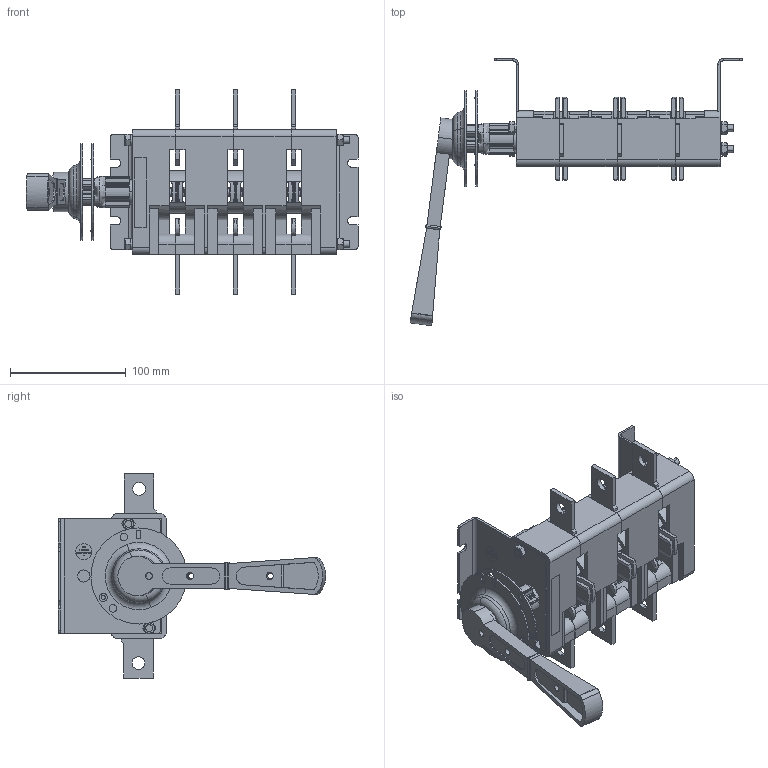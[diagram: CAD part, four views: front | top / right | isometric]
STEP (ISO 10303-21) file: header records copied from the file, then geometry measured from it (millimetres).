
FILE_DESCRIPTION (( 'STEP AP214' ), '1' );
FILE_NAME ('ﾂﾐ32-37ﾔ ﾃﾆﾈﾊ.642523.008-03 (ﾂ30250-400ﾀ).STEP', '2022-07-14T11:00:48', ( '' ), ( '' ), 'SwSTEP 2.0', 'SolidWorks 2018', '' );
FILE_SCHEMA (( 'AUTOMOTIVE_DESIGN' ));
Length unit declared in the file: millimetre
Products named in the file (30): 想囫蜩磬_闷仁.745355.007; Ðóêîÿòêà ÃÆÈÊ.303658.010; Êîíòàêò ïîäâèæíûé_ÃÆÈÊ.745355.013; Êîðïóñ ëåâûé ÃÆÈÊ.735384.047; ﾘ琺矜 D32; 噪囗弼 闷仁.712378.001; Ïëàñòèíà óïðàâëåíèÿ; ﾏ跖浯 ﾃﾆﾈﾊ.753553.010; ﾘ琺矜 D15; ﾘ琺矜 6 65ﾃ 016; 暑痫篑 镳噔 闷仁.735384.045; 务黖闷仁.715411.019; 想囫蜩磬_-01 (帷獱); Êîíòàêò ïîäâèæíûé ÃÆÈÊ.685179.145; Êîðïóñ ñðåäíèé ÃÆÈÊ.735384.046; ﾂ琿 ﾃﾆﾈﾊ.715274.003; Òàáëè÷êà äëÿ ñáîðêè ÷èñòàÿ; ﾂﾐ32-37ﾔ ﾃﾆﾈﾊ.642523.008-03 (ﾂ30250-400ﾀ); ﾘ琺矜 ﾃﾆﾈﾊ.758491.056; Áîêîâèíà ïðàâàÿ ÃÆÈÊ.735224.026; Øïèëüêà Ì6 ÃÆÈÊ.758292.005; Ãàéêà 2Ì6-6Í.5.016; ﾎﾁﾎﾋﾎﾗﾊﾀ_ﾍ; ﾂ鏆鮏 ﾃﾆﾈﾊ.745485.005; ﾏ跖浯_ﾃﾆﾈﾊ.753553.011_-01 (癸ｮ爼); Òàáëè÷êà äëÿ ñáîðêè ÷èñòàÿ áîëüøàÿ; 买箅赅 闷仁.713141.010; Áîêîâèíà ëåâàÿ ÃÆÈÊ.735224.027; 澡犟囹铕 闷仁.745484.003; 澡犟囹铕_闷仁.745484.006
Assembly tree (52 placements, depth 3):
  ﾂﾐ32-37ﾔ ﾃﾆﾈﾊ.642523.008-03 (ﾂ30250-400ﾀ)
    ﾂ琿 ﾃﾆﾈﾊ.715274.003
    Êîðïóñ ëåâûé ÃÆÈÊ.735384.047
    Êîðïóñ ñðåäíèé ÃÆÈÊ.735384.046  x2
    暑痫篑 镳噔 闷仁.735384.045
    Áîêîâèíà ëåâàÿ ÃÆÈÊ.735224.027
    Áîêîâèíà ïðàâàÿ ÃÆÈÊ.735224.026
    Êîíòàêò ïîäâèæíûé ÃÆÈÊ.685179.145  x3
      Êîíòàêò ïîäâèæíûé_ÃÆÈÊ.745355.013
      想囫蜩磬_闷仁.745355.007
      澡犟囹铕_闷仁.745484.006
      务黖闷仁.715411.019
      ﾏ跖浯_ﾃﾆﾈﾊ.753553.011_-01 (癸ｮ爼)
    Øïèëüêà Ì6 ÃÆÈÊ.758292.005  x2
    Ãàéêà 2Ì6-6Í.5.016  x4
    ﾘ琺矜 6 65ﾃ 016  x4
    ﾏ跖浯 ﾃﾆﾈﾊ.753553.010  x2
    澡犟囹铕 闷仁.745484.003  x2
    Ðóêîÿòêà ÃÆÈÊ.303658.010
      ﾘ琺矜 D32
      ﾘ琺矜 D15
      Ïëàñòèíà óïðàâëåíèÿ
      想囫蜩磬_-01 (帷獱)
      ﾎﾁﾎﾋﾎﾗﾊﾀ_ﾍ
    买箅赅 闷仁.713141.010
    ﾘ琺矜 ﾃﾆﾈﾊ.758491.056
    噪囗弼 闷仁.712378.001
    ﾂ鏆鮏 ﾃﾆﾈﾊ.745485.005  x6
    Òàáëè÷êà äëÿ ñáîðêè ÷èñòàÿ
    Òàáëè÷êà äëÿ ñáîðêè ÷èñòàÿ áîëüøàÿ
Bounding box: 286.96 x 231.02 x 176.5 mm (x, y, z)
Volume: 596460.4 mm3; surface area: 361703.8 mm2
Topology: 71 solids, 71 shells, 2428 faces, 6097 edges, 3884 vertices
Faces by surface type: plane 1413, cylinder 819, bspline 92, cone 68, torus 30, sphere 6
Entity records: 122627 total; most frequent: CARTESIAN_POINT 88611, DIRECTION 6983, ORIENTED_EDGE 6788, EDGE_CURVE 3394, AXIS2_PLACEMENT_3D 2454, VERTEX_POINT 2212, LINE 2075, VECTOR 2075
